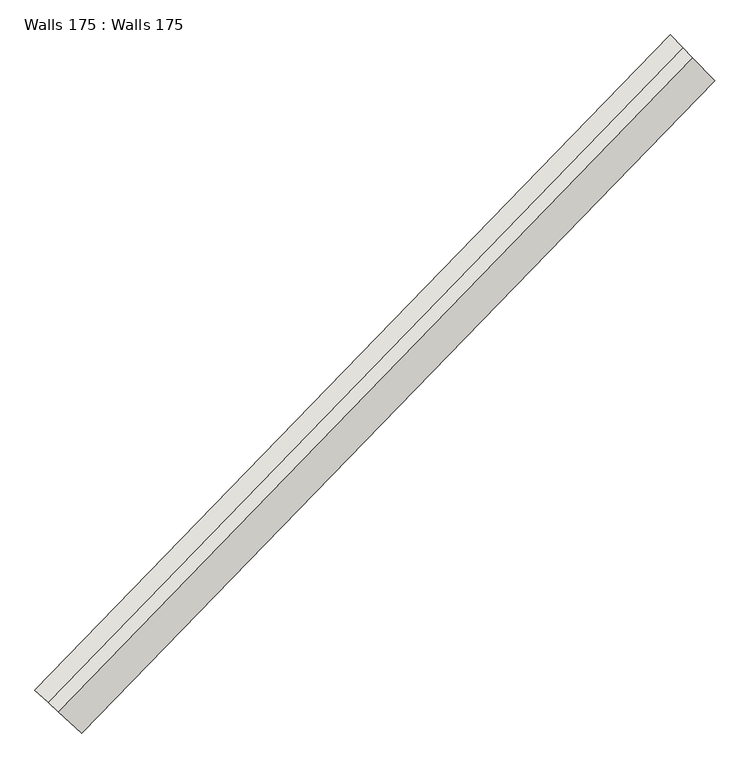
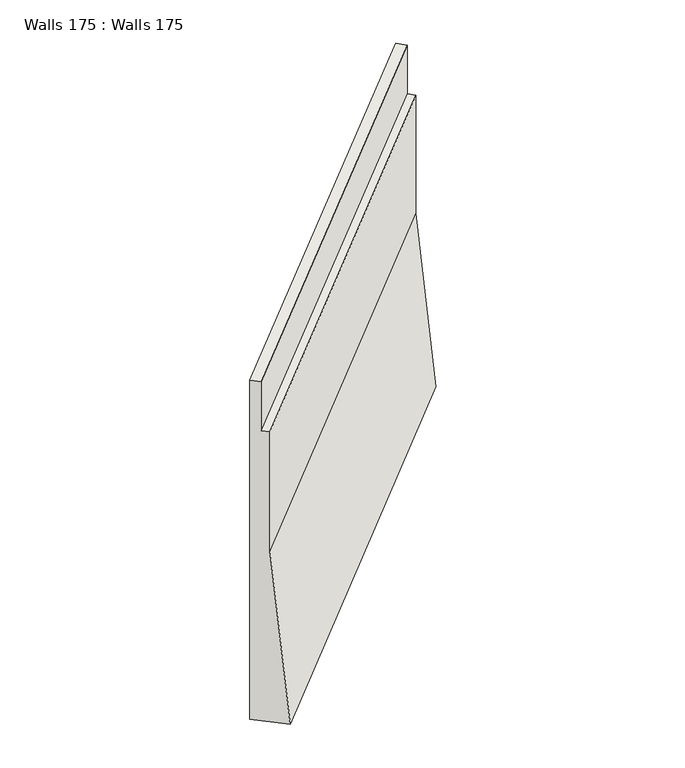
"""IFC4 building model written with IfcOpenShell, lengths in millimetres: wall geometry, Walls 175 : Walls 175."""

from ifc_helpers import new_model, si_unit, frame, origin, place, context, project, spatial, source, transform, mapped, element, save
from ifc_brep_helpers import plane_surface, spline_curve, spline_surface, advanced_brep


def walls_175_walls_175_cfe156ae(model_context):
    return source(origin(), model_context, "Body", "AdvancedBrep", [
        advanced_brep(
        [(233216.8035347, 138382.1171995, 643120.0), (232958.9435644, 138618.7777914, 646620.0), (232958.9435644, 138618.7777914, 649070.0), (232848.4321486, 138720.2037593, 649070.0), (232848.4321486, 138720.2037593, 650070.0), (232701.0835941, 138855.4383832, 650070.0), (232701.0835941, 138855.4383832, 643120.0), (240195.3796117, 145571.7855922, 643240.0), (239706.9045303, 146073.1757545, 643240.0), (239706.9045303, 146073.1757545, 650160.0), (239846.4688393, 145929.9214224, 650160.0), (239846.4688393, 145929.9214224, 649160.0), (239951.142071, 145822.4806734, 649160.0), (239951.142071, 145822.4806734, 646740.0)],
        [
            (0, 1),
            (1, 2),
            (2, 3),
            (3, 4),
            (4, 5),
            (5, 6),
            (6, 0),
            (7, 8),
            (8, 9),
            (9, 10),
            (10, 11),
            (11, 12),
            (12, 13),
            (13, 7),
            (11, 3, spline_curve(3, [(239846.4688393, 145929.9214224, 649160.0), (237447.239979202, 143592.493206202, 649129.999999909), (235113.346639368, 141188.002807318, 649100.000000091), (232848.4321486, 138720.2037593, 649070.0)], [4, 4], [0.0, 32.955665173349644])),
            (2, 12, spline_curve(3, [(232958.9435644, 138618.7777914, 649070.0), (235221.968526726, 141084.518051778, 649100.000000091), (237553.914791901, 143487.00248126, 649129.999999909), (239951.142071, 145822.4806734, 649160.0)], [4, 4], [0.0, 32.955665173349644])),
            (9, 5, spline_curve(3, [(239706.9045303, 146073.1757545, 650160.0), (237305.006894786, 143733.147507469, 650130.000000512), (234968.517454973, 141325.982480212, 650099.999999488), (232701.0835941, 138855.4383832, 650070.0)], [4, 4], [0.0, 32.98775185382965])),
            (4, 10, spline_curve(3, [(232848.4321486, 138720.2037593, 650070.0), (235113.3466392, 141188.002806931, 650099.999999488), (237447.239978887, 143592.493206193, 650130.000000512), (239846.4688393, 145929.9214224, 650160.0)], [4, 4], [0.0, 32.98775185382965])),
            (8, 6, spline_curve(3, [(239706.9045303, 146073.1757545, 643240.0), (237305.006895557, 143733.14750698, 643199.999999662), (234968.517455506, 141325.98248013, 643160.000000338), (232701.0835941, 138855.4383832, 643120.0)], [4, 4], [0.0, 33.0065640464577])),
            (7, 0, spline_curve(3, [(240195.3796117, 145571.7855922, 643240.0), (237802.822689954, 143240.857455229, 643199.999999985), (235475.419598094, 140843.053624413, 643160.000000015), (233216.8035347, 138382.1171995, 643120.0)], [4, 4], [0.0, 32.94294299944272])),
            (13, 1, spline_curve(3, [(239951.142071, 145822.4806734, 646740.0), (237553.91479224, 143487.002480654, 646700.000000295), (235221.968526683, 141084.518052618, 646659.999999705), (232958.9435644, 138618.7777914, 646620.0)], [4, 4], [0.0, 32.910857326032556])),
        ],
        [
            plane_surface(frame((232890.5317356, 138681.5652953, 647305.7142857), z_axis=(-0.6761731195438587, -0.736742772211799, 0.0), x_axis=(-0.07330864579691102, 0.06728174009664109, 0.9950371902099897))),
            plane_surface(frame((239886.3443561, 145888.9916133, 647408.5714286), z_axis=(0.7162716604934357, 0.6978215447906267, 0.0), x_axis=(-0.0694358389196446, 0.07127169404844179, 0.9950371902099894))),
            spline_surface(3, 3, [[(239951.142071, 145822.4806734, 649160.0), (237553.914792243, 143487.002481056, 649130.0), (235221.968526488, 141084.518052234, 649100.0), (232958.9435644, 138618.7777914, 649070.0)], [(239916.25099376, 145858.294256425, 649160.0), (237518.356521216, 143522.166056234, 649130.0), (235185.761230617, 141119.012970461, 649100.0), (232922.106425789, 138652.586447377, 649070.0)], [(239881.35991654, 145894.107839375, 649160.0), (237482.798250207, 143557.329631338, 649130.0), (235149.553934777, 141153.507888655, 649100.0), (232885.269287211, 138686.395103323, 649070.0)], [(239846.4688393, 145929.9214224, 649160.0), (237447.23997918, 143592.493206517, 649130.0), (235113.346638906, 141188.002806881, 649100.0), (232848.4321486, 138720.2037593, 649070.0)]], [4, 4], [4, 4], [0.0, 0.4921259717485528], [0.0, 32.955665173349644]),
            spline_surface(3, 3, [[(239846.4688393, 145929.9214224, 650160.0), (237447.23997918, 143592.493206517, 650130.0), (235113.346638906, 141188.002806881, 650100.0), (232848.4321486, 138720.2037593, 650070.0)], [(239799.947402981, 145977.672866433, 650160.0), (237399.828951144, 143639.377973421, 650130.0), (235065.07024441, 141233.996031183, 650100.0), (232799.315963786, 138765.28196727, 650070.0)], [(239753.425966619, 146025.424310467, 650160.0), (237352.417923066, 143686.262740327, 650130.0), (235016.793849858, 141279.989255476, 650100.0), (232750.199778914, 138810.36017523, 650070.0)], [(239706.9045303, 146073.1757545, 650160.0), (237305.00689503, 143733.147507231, 650130.0), (234968.517455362, 141325.982479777, 650100.0), (232701.0835941, 138855.4383832, 650070.0)]], [4, 4], [4, 4], [0.0, 0.6561679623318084], [0.0, 32.98775185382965]),
            spline_surface(3, 3, [[(239706.9045303, 146073.1757545, 650160.0), (237305.00689503, 143733.147507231, 650130.0), (234968.517455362, 141325.982479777, 650100.0), (232701.0835941, 138855.4383832, 650070.0)], [(239706.9045303, 146073.1757545, 647853.333333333), (237305.00689503, 143733.147507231, 647820.0), (234968.517455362, 141325.982479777, 647786.666666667), (232701.0835941, 138855.4383832, 647753.333333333)], [(239706.9045303, 146073.1757545, 645546.666666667), (237305.00689503, 143733.147507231, 645510.0), (234968.517455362, 141325.982479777, 645473.333333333), (232701.0835941, 138855.4383832, 645436.666666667)], [(239706.9045303, 146073.1757545, 643240.0), (237305.00689503, 143733.147507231, 643200.0), (234968.517455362, 141325.982479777, 643160.0), (232701.0835941, 138855.4383832, 643120.0)]], [4, 4], [4, 4], [0.0, 22.752624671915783], [0.0, 33.0065640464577]),
            spline_surface(3, 3, [[(239706.9045303, 146073.1757545, 643240.0), (237305.00689503, 143733.147507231, 643200.0), (234968.517455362, 141325.982479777, 643160.0), (232701.0835941, 138855.4383832, 643120.0)], [(239869.729557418, 145906.045700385, 643240.0), (237470.945493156, 143569.050823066, 643200.0), (235137.484836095, 141165.006194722, 643160.0), (232872.990240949, 138697.664655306, 643120.0)], [(240032.554584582, 145738.915646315, 643240.0), (237636.884091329, 143404.954138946, 643200.0), (235306.45221688, 141004.029909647, 643160.0), (233044.896887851, 138539.890927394, 643120.0)], [(240195.3796117, 145571.7855922, 643240.0), (237802.822689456, 143240.857454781, 643200.0), (235475.419597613, 140843.053624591, 643160.0), (233216.8035347, 138382.1171995, 643120.0)]], [4, 4], [4, 4], [0.0, 2.2965878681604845], [0.0, 32.94294299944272]),
            spline_surface(3, 3, [[(240195.3796117, 145571.7855922, 643240.0), (237802.822689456, 143240.857454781, 643200.0), (235475.419597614, 140843.053624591, 643160.0), (233216.8035347, 138382.1171995, 643120.0)], [(240113.967098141, 145655.350619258, 644406.666666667), (237719.853390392, 143322.905796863, 644366.666666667), (235390.935907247, 140923.541767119, 644326.666666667), (233130.850211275, 138461.004063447, 644286.666666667)], [(240032.554584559, 145738.915646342, 645573.333333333), (237636.884091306, 143404.954138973, 645533.333333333), (235306.452216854, 141004.029909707, 645493.333333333), (233044.896887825, 138539.890927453, 645453.333333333)], [(239951.142071, 145822.4806734, 646740.0), (237553.914792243, 143487.002481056, 646700.0), (235221.968526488, 141084.518052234, 646660.0), (232958.9435644, 138618.7777914, 646620.0)]], [4, 4], [4, 4], [0.0, 11.540211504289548], [0.0, 32.910857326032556]),
            spline_surface(3, 3, [[(239951.142071, 145822.4806734, 646740.0), (237553.914792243, 143487.002481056, 646700.0), (235221.968526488, 141084.518052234, 646660.0), (232958.9435644, 138618.7777914, 646620.0)], [(239951.142071, 145822.4806734, 647546.666666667), (237553.914792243, 143487.002481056, 647510.0), (235221.968526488, 141084.518052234, 647473.333333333), (232958.9435644, 138618.7777914, 647436.666666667)], [(239951.142071, 145822.4806734, 648353.333333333), (237553.914792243, 143487.002481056, 648320.0), (235221.968526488, 141084.518052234, 648286.666666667), (232958.9435644, 138618.7777914, 648253.333333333)], [(239951.142071, 145822.4806734, 649160.0), (237553.914792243, 143487.002481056, 649130.0), (235221.968526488, 141084.518052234, 649100.0), (232958.9435644, 138618.7777914, 649070.0)]], [4, 4], [4, 4], [0.0, 7.9888451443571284], [0.0, 32.94239161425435]),
            spline_surface(3, 3, [[(239846.4688393, 145929.9214224, 649160.0), (237447.23997918, 143592.493206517, 649130.0), (235113.346638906, 141188.002806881, 649100.0), (232848.4321486, 138720.2037593, 649070.0)], [(239846.4688393, 145929.9214224, 649493.333333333), (237447.23997918, 143592.493206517, 649463.333333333), (235113.346638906, 141188.002806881, 649433.333333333), (232848.4321486, 138720.2037593, 649403.333333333)], [(239846.4688393, 145929.9214224, 649826.666666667), (237447.23997918, 143592.493206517, 649796.666666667), (235113.346638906, 141188.002806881, 649766.666666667), (232848.4321486, 138720.2037593, 649736.666666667)], [(239846.4688393, 145929.9214224, 650160.0), (237447.23997918, 143592.493206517, 650130.0), (235113.346638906, 141188.002806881, 650100.0), (232848.4321486, 138720.2037593, 650070.0)]], [4, 4], [4, 4], [0.0, 3.280839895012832], [0.0, 32.96941660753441]),
        ],
        [
            (0, [[1, 2, 3, 4, 5, 6, 7]]),
            (1, [[8, 9, 10, 11, 12, 13, 14]]),
            (2, [[-12, 15, -3, 16]]),
            (3, [[-10, 17, -5, 18]]),
            (4, [[-9, 19, -6, -17]]),
            (5, [[-8, 20, -7, -19]]),
            (6, [[-14, 21, -1, -20]]),
            (7, [[-13, -16, -2, -21]]),
            (8, [[-11, -18, -4, -15]]),
        ],
    ),
    ])


if __name__ == "__main__":
    model = new_model("IFC4")
    model_context = context("Model", 3, world=origin())
    ifc_project = project(units=[si_unit("LENGTHUNIT", "METRE", prefix="MILLI")], contexts=[model_context])
    site = spatial("IfcSite", under=ifc_project)
    building = spatial("IfcBuilding", under=site)
    placement = place(None, origin())
    walls_175_walls_175_shape = walls_175_walls_175_cfe156ae(model_context)
    element("IfcWall", 1, ObjectType="Walls 175 : Walls 175", at=placement, inside=building, context=model_context, shape_type="MappedRepresentation", body=[
        mapped(walls_175_walls_175_shape, transform((0.0, 0.0, 0.0), x_axis=(1.0, 0.0, 0.0), y_axis=(0.0, 1.0, 0.0), z_axis=(0.0, 0.0, 1.0))),
    ])
    save(model, "model.ifc")
